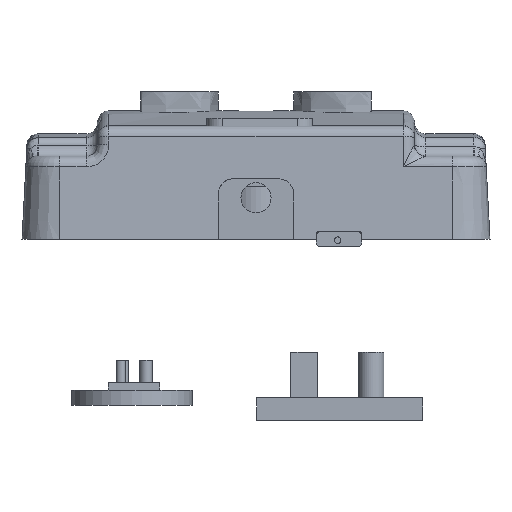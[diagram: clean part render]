
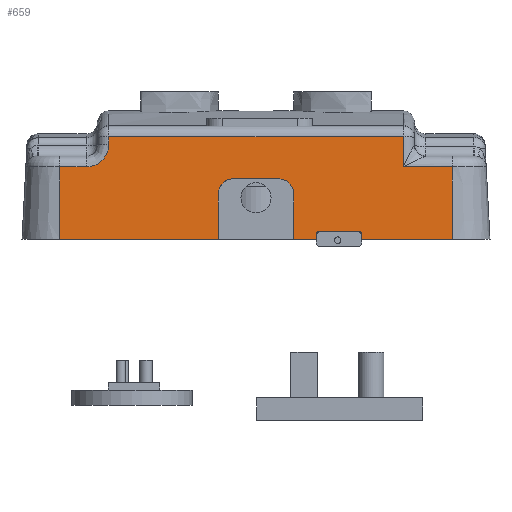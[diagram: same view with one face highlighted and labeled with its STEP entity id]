
A CAD part, front view. The second image highlights one B-rep face of the part: STEP entity #659.
In plain terms, the highlighted planar face has unit normal (0, -0.999, 0.052).
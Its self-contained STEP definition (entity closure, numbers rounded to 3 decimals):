
#367=ELLIPSE('',#6021,3.004,3.);
#368=ELLIPSE('',#6022,2.003,2.);
#369=ELLIPSE('',#6023,2.003,2.);
#370=ELLIPSE('',#6024,0.2,0.2);
#371=ELLIPSE('',#6025,0.2,0.2);
#659=ADVANCED_FACE('',(#1184),#998,.T.);
#998=PLANE('',#6026);
#1184=FACE_OUTER_BOUND('',#1487,.T.);
#1487=EDGE_LOOP('',(#2323,#2324,#2325,#2326,#2327,#2328,#2329,#2330,#2331,
#2332,#2333,#2334,#2335,#2336,#2337,#2338,#2339,#2340,#2341,#2342,#2343));
#2323=ORIENTED_EDGE('',*,*,#4378,.T.);
#2324=ORIENTED_EDGE('',*,*,#4379,.T.);
#2325=ORIENTED_EDGE('',*,*,#4380,.T.);
#2326=ORIENTED_EDGE('',*,*,#4381,.T.);
#2327=ORIENTED_EDGE('',*,*,#4382,.F.);
#2328=ORIENTED_EDGE('',*,*,#4383,.T.);
#2329=ORIENTED_EDGE('',*,*,#4384,.T.);
#2330=ORIENTED_EDGE('',*,*,#4245,.F.);
#2331=ORIENTED_EDGE('',*,*,#4385,.F.);
#2332=ORIENTED_EDGE('',*,*,#4386,.T.);
#2333=ORIENTED_EDGE('',*,*,#4387,.F.);
#2334=ORIENTED_EDGE('',*,*,#4388,.T.);
#2335=ORIENTED_EDGE('',*,*,#4389,.F.);
#2336=ORIENTED_EDGE('',*,*,#4241,.F.);
#2337=ORIENTED_EDGE('',*,*,#4390,.T.);
#2338=ORIENTED_EDGE('',*,*,#4391,.T.);
#2339=ORIENTED_EDGE('',*,*,#4392,.F.);
#2340=ORIENTED_EDGE('',*,*,#4393,.T.);
#2341=ORIENTED_EDGE('',*,*,#4394,.T.);
#2342=ORIENTED_EDGE('',*,*,#4257,.F.);
#2343=ORIENTED_EDGE('',*,*,#4395,.T.);
#3726=VERTEX_POINT('',#8296);
#3727=VERTEX_POINT('',#8298);
#3730=VERTEX_POINT('',#8304);
#3731=VERTEX_POINT('',#8306);
#3742=VERTEX_POINT('',#8328);
#3743=VERTEX_POINT('',#8330);
#3845=VERTEX_POINT('',#8573);
#3846=VERTEX_POINT('',#8574);
#3847=VERTEX_POINT('',#8576);
#3848=VERTEX_POINT('',#8578);
#3849=VERTEX_POINT('',#8580);
#3850=VERTEX_POINT('',#8582);
#3851=VERTEX_POINT('',#8584);
#3852=VERTEX_POINT('',#8587);
#3853=VERTEX_POINT('',#8589);
#3854=VERTEX_POINT('',#8591);
#3855=VERTEX_POINT('',#8593);
#3856=VERTEX_POINT('',#8596);
#3857=VERTEX_POINT('',#8598);
#3858=VERTEX_POINT('',#8600);
#3859=VERTEX_POINT('',#8602);
#4241=EDGE_CURVE('',#3726,#3727,#5017,.T.);
#4245=EDGE_CURVE('',#3730,#3731,#5021,.T.);
#4257=EDGE_CURVE('',#3742,#3743,#5029,.T.);
#4378=EDGE_CURVE('',#3845,#3846,#5109,.T.);
#4379=EDGE_CURVE('',#3846,#3847,#5110,.T.);
#4380=EDGE_CURVE('',#3847,#3848,#5111,.T.);
#4381=EDGE_CURVE('',#3848,#3849,#5112,.T.);
#4382=EDGE_CURVE('',#3850,#3849,#367,.T.);
#4383=EDGE_CURVE('',#3850,#3851,#5113,.T.);
#4384=EDGE_CURVE('',#3851,#3731,#5114,.T.);
#4385=EDGE_CURVE('',#3852,#3730,#5115,.T.);
#4386=EDGE_CURVE('',#3852,#3853,#368,.T.);
#4387=EDGE_CURVE('',#3854,#3853,#5116,.T.);
#4388=EDGE_CURVE('',#3854,#3855,#369,.T.);
#4389=EDGE_CURVE('',#3727,#3855,#5117,.T.);
#4390=EDGE_CURVE('',#3726,#3856,#5118,.T.);
#4391=EDGE_CURVE('',#3856,#3857,#370,.T.);
#4392=EDGE_CURVE('',#3858,#3857,#5119,.T.);
#4393=EDGE_CURVE('',#3858,#3859,#371,.T.);
#4394=EDGE_CURVE('',#3859,#3743,#5120,.T.);
#4395=EDGE_CURVE('',#3742,#3845,#5121,.T.);
#5017=LINE('',#8297,#5489);
#5021=LINE('',#8305,#5493);
#5029=LINE('',#8329,#5501);
#5109=LINE('',#8572,#5581);
#5110=LINE('',#8575,#5582);
#5111=LINE('',#8577,#5583);
#5112=LINE('',#8579,#5584);
#5113=LINE('',#8583,#5585);
#5114=LINE('',#8585,#5586);
#5115=LINE('',#8586,#5587);
#5116=LINE('',#8590,#5588);
#5117=LINE('',#8594,#5589);
#5118=LINE('',#8595,#5590);
#5119=LINE('',#8599,#5591);
#5120=LINE('',#8603,#5592);
#5121=LINE('',#8604,#5593);
#5489=VECTOR('',#6588,1.);
#5493=VECTOR('',#6592,1.);
#5501=VECTOR('',#6608,1.);
#5581=VECTOR('',#6810,1.);
#5582=VECTOR('',#6811,1.);
#5583=VECTOR('',#6812,1.);
#5584=VECTOR('',#6813,1.);
#5585=VECTOR('',#6816,1.);
#5586=VECTOR('',#6817,1.);
#5587=VECTOR('',#6818,1.);
#5588=VECTOR('',#6821,1.);
#5589=VECTOR('',#6824,1.);
#5590=VECTOR('',#6825,1.);
#5591=VECTOR('',#6828,1.);
#5592=VECTOR('',#6831,1.);
#5593=VECTOR('',#6832,1.);
#6021=AXIS2_PLACEMENT_3D('',#8581,#6814,#6815);
#6022=AXIS2_PLACEMENT_3D('',#8588,#6819,#6820);
#6023=AXIS2_PLACEMENT_3D('',#8592,#6822,#6823);
#6024=AXIS2_PLACEMENT_3D('',#8597,#6826,#6827);
#6025=AXIS2_PLACEMENT_3D('',#8601,#6829,#6830);
#6026=AXIS2_PLACEMENT_3D('',#8605,#6833,#6834);
#6588=DIRECTION('',(-1.,0.,0.));
#6592=DIRECTION('',(-1.,0.,0.));
#6608=DIRECTION('',(-1.,0.,0.));
#6810=DIRECTION('',(-1.,0.,0.));
#6811=DIRECTION('',(0.,0.052,0.999));
#6812=DIRECTION('',(-1.,0.,0.));
#6813=DIRECTION('',(0.,-0.052,-0.999));
#6814=DIRECTION('',(0.,-0.999,0.052));
#6815=DIRECTION('',(0.,-0.052,-0.999));
#6816=DIRECTION('',(-1.,0.,0.));
#6817=DIRECTION('',(0.,-0.052,-0.999));
#6818=DIRECTION('',(0.,-0.052,-0.999));
#6819=DIRECTION('',(0.,0.999,-0.052));
#6820=DIRECTION('',(0.,-0.052,-0.999));
#6821=DIRECTION('',(-1.,0.,0.));
#6822=DIRECTION('',(0.,0.999,-0.052));
#6823=DIRECTION('',(0.,-0.052,-0.999));
#6824=DIRECTION('',(0.,0.052,0.999));
#6825=DIRECTION('',(0.,0.052,0.999));
#6826=DIRECTION('',(0.,0.999,-0.052));
#6827=DIRECTION('',(0.,-0.052,-0.999));
#6828=DIRECTION('',(-1.,0.,0.));
#6829=DIRECTION('',(0.,0.999,-0.052));
#6830=DIRECTION('',(0.,0.052,0.999));
#6831=DIRECTION('',(0.,-0.052,-0.999));
#6832=DIRECTION('',(0.,0.052,0.999));
#6833=DIRECTION('',(0.,-0.999,0.052));
#6834=DIRECTION('',(0.,0.052,0.999));
#8296=CARTESIAN_POINT('',(8.,-33.,2.439));
#8297=CARTESIAN_POINT('',(31.,-33.,2.439));
#8298=CARTESIAN_POINT('',(5.,-33.,2.439));
#8304=CARTESIAN_POINT('',(-5.,-33.,2.439));
#8305=CARTESIAN_POINT('',(31.,-33.,2.439));
#8306=CARTESIAN_POINT('',(-26.,-33.,2.439));
#8328=CARTESIAN_POINT('',(26.,-33.,2.439));
#8329=CARTESIAN_POINT('',(31.,-33.,2.439));
#8330=CARTESIAN_POINT('',(14.,-33.,2.439));
#8572=CARTESIAN_POINT('',(21.,-32.498,12.018));
#8573=CARTESIAN_POINT('',(26.,-32.498,12.018));
#8574=CARTESIAN_POINT('',(19.5,-32.498,12.018));
#8575=CARTESIAN_POINT('',(19.5,-32.292,15.939));
#8576=CARTESIAN_POINT('',(19.5,-32.288,16.018));
#8577=CARTESIAN_POINT('',(0.,-32.288,16.018));
#8578=CARTESIAN_POINT('',(-19.5,-32.288,16.018));
#8579=CARTESIAN_POINT('',(-19.5,-33.,2.439));
#8580=CARTESIAN_POINT('',(-19.5,-32.341,15.018));
#8581=CARTESIAN_POINT('',(-22.5,-32.341,15.018));
#8582=CARTESIAN_POINT('',(-22.5,-32.498,12.018));
#8583=CARTESIAN_POINT('',(0.,-32.498,12.018));
#8584=CARTESIAN_POINT('',(-26.,-32.498,12.018));
#8585=CARTESIAN_POINT('',(-26.,-33.,2.439));
#8586=CARTESIAN_POINT('',(-5.,-33.,2.439));
#8587=CARTESIAN_POINT('',(-5.,-32.686,8.439));
#8588=CARTESIAN_POINT('',(-3.,-32.686,8.439));
#8589=CARTESIAN_POINT('',(-3.,-32.581,10.439));
#8590=CARTESIAN_POINT('',(0.,-32.581,10.439));
#8591=CARTESIAN_POINT('',(3.,-32.581,10.439));
#8592=CARTESIAN_POINT('',(3.,-32.686,8.439));
#8593=CARTESIAN_POINT('',(5.,-32.686,8.439));
#8594=CARTESIAN_POINT('',(5.,-33.,2.439));
#8595=CARTESIAN_POINT('',(8.,-33.,2.439));
#8596=CARTESIAN_POINT('',(8.,-32.958,3.239));
#8597=CARTESIAN_POINT('',(8.2,-32.958,3.239));
#8598=CARTESIAN_POINT('',(8.2,-32.948,3.439));
#8599=CARTESIAN_POINT('',(0.,-32.948,3.439));
#8600=CARTESIAN_POINT('',(13.8,-32.948,3.439));
#8601=CARTESIAN_POINT('',(13.8,-32.958,3.239));
#8602=CARTESIAN_POINT('',(14.,-32.958,3.239));
#8603=CARTESIAN_POINT('',(14.,-33.,2.439));
#8604=CARTESIAN_POINT('',(26.,-33.,2.439));
#8605=CARTESIAN_POINT('',(0.,-33.,2.439));
